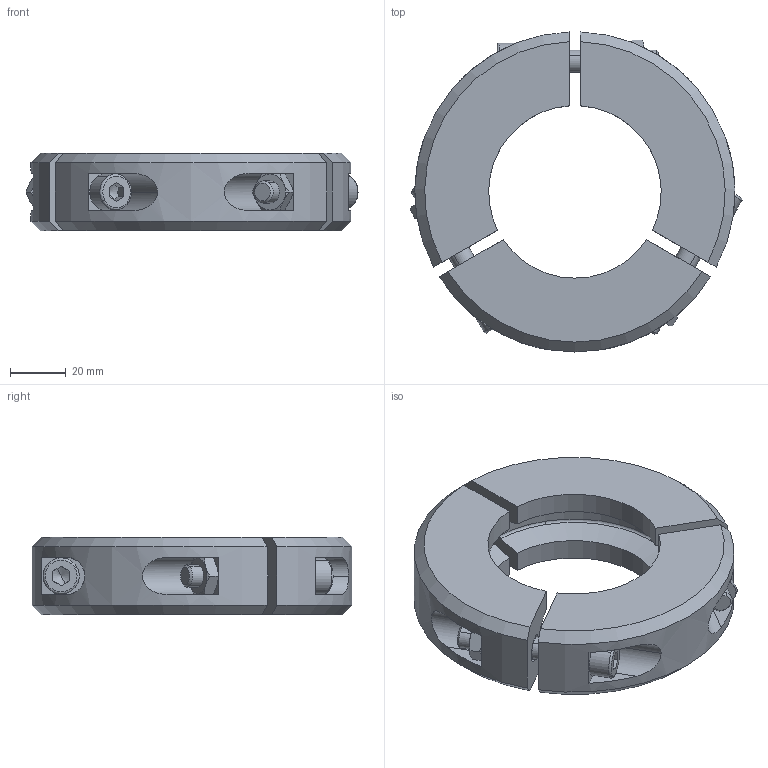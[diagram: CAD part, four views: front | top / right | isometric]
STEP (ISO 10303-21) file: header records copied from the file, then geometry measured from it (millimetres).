
FILE_DESCRIPTION((''),'2;1');
FILE_NAME('W:\211-011.stp','2003-11-10T10:50:14',('KAA'),(''),'Autodesk Inventor (R) 6.0','Autodesk Inventor (R) 6.0','');
FILE_SCHEMA(('CONFIG_CONTROL_DESIGN'));
Length unit declared in the file: millimetre
Products named in the file (1): 211-011
Bounding box: 119.29 x 114.97 x 28 mm (x, y, z)
Volume: 163975 mm3; surface area: 45418.2 mm2
Topology: 1 solids, 4 shells, 264 faces, 636 edges, 396 vertices
Faces by surface type: cone 90, plane 87, cylinder 69, torus 12, bspline 6
Entity records: 8218 total; most frequent: CARTESIAN_POINT 2194, ORIENTED_EDGE 1260, DIRECTION 1253, EDGE_CURVE 630, AXIS2_PLACEMENT_3D 517, VERTEX_POINT 396, EDGE_LOOP 306, FACE_OUTER_BOUND 264
